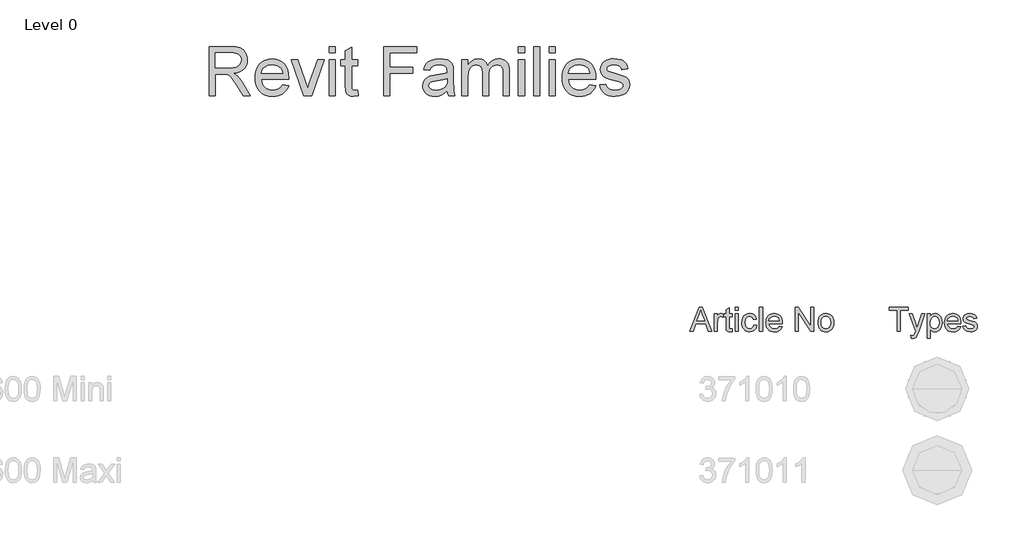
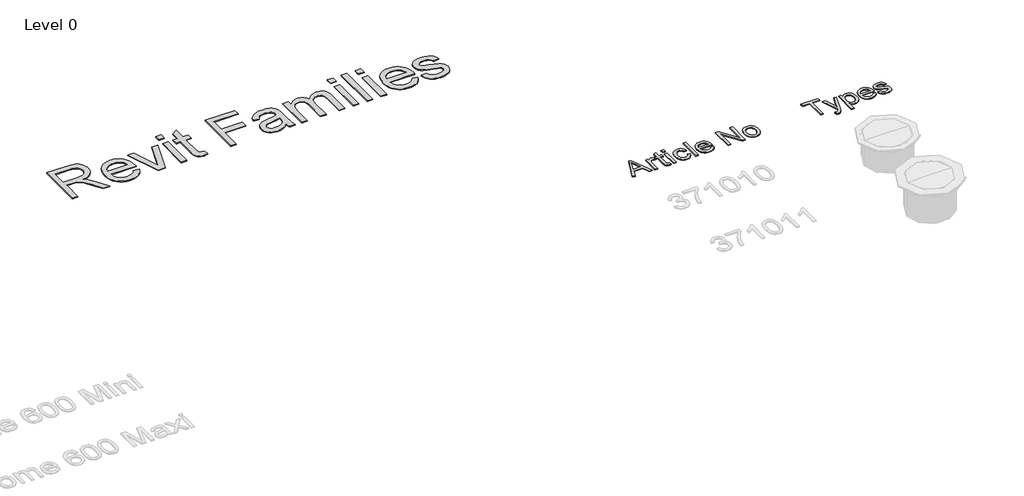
# One storey, part 25 of 25: 3 proxies.
"""IFC4 building model written with IfcOpenShell, lengths in millimetres."""

from ifc_helpers import new_model, si_unit, origin, origin_with_axes, place, context, project, spatial, polyline, outline, extrude, element, save

model = new_model("IFC4")

# Units and contexts
model_context = context("Model", 3, world=origin())
ifc_project = project(units=[si_unit("LENGTHUNIT", "METRE", prefix="MILLI")], contexts=[model_context])

# Site, building, storey
site = spatial("IfcSite", under=ifc_project)
building = spatial("IfcBuilding", under=site)
storey = spatial("IfcBuildingStorey", under=building, Name="Level 0", Elevation=0.0)

# Proxies
placement = place(None, origin())
element("IfcBuildingElementProxy", 1, Name="300mm Arial", ObjectType="300mm Arial", at=placement, inside=storey, context=model_context, shape_type="SweptSolid", body=[
    extrude(outline(polyline([(-3312.9807775, 8653.8274553), (-3195.0721236, 8949.2120707), (-3163.6298159, 8949.2120707), (-3045.7211621, 8653.8274553), (-3084.7355852, 8653.8274553), (-3118.5577005, 8746.1351476), (-3240.2163544, 8746.1351476), (-3273.9663544, 8653.8274553), (-3312.9807775, 8653.8274553)]), holes=[polyline([(-3226.6586621, 8783.0582246), (-3132.0432775, 8783.0582246), (-3158.6538544, 8855.6784169), (-3179.3509698, 8912.2889938), (-3197.7403928, 8862.0245707), (-3226.6586621, 8783.0582246)])]), origin_with_axes(), (0.0, 0.0, 1.0), 10.0),
    extrude(outline(polyline([(-3010.8894313, 8653.8274553), (-3010.8894313, 8870.7505323), (-2978.581739, 8870.7505323), (-2978.581739, 8838.6591861), (-2966.6466428, 8857.2649553), (-2955.6490467, 8868.2264938), (-2944.6153928, 8873.5810611), (-2932.5721236, 8875.3659169), (-2914.1827005, 8872.5173592), (-2895.5048159, 8863.9716861), (-2907.8365467, 8830.8707246), (-2920.8173159, 8836.5498111), (-2933.7980852, 8838.44284), (-2944.8227246, 8836.6219265), (-2954.675489, 8831.1591861), (-2962.6352246, 8822.4692823), (-2967.9807775, 8810.9668784), (-2972.4699602, 8790.3418784), (-2973.9663544, 8767.8418784), (-2973.9663544, 8653.8274553), (-3010.8894313, 8653.8274553)])), origin_with_axes(), (0.0, 0.0, 1.0), 10.0),
    extrude(outline(polyline([(-2793.9663544, 8684.6207246), (-2789.3509698, 8652.7457246), (-2816.9711621, 8649.2120707), (-2834.6935178, 8650.7445226), (-2847.9086621, 8655.3418784), (-2857.2476044, 8662.427215), (-2863.3413544, 8671.4236092), (-2866.6947198, 8686.8743303), (-2867.8125082, 8713.3226476), (-2867.8125082, 8833.8274553), (-2895.5048159, 8833.8274553), (-2895.5048159, 8870.7505323), (-2867.8125082, 8870.7505323), (-2867.8125082, 8923.4668784), (-2830.8894313, 8945.1736092), (-2830.8894313, 8870.7505323), (-2793.9663544, 8870.7505323), (-2793.9663544, 8833.8274553), (-2830.8894313, 8833.8274553), (-2830.8894313, 8714.4043784), (-2828.9423159, 8695.3659169), (-2822.6322198, 8688.6231284), (-2810.0480852, 8686.1351476), (-2793.9663544, 8684.6207246)])), origin_with_axes(), (0.0, 0.0, 1.0), 10.0),
    extrude(outline(polyline([(-2757.0432775, 8912.2889938), (-2757.0432775, 8949.2120707), (-2720.1202005, 8949.2120707), (-2720.1202005, 8912.2889938), (-2757.0432775, 8912.2889938)])), origin_with_axes(), (0.0, 0.0, 1.0), 10.0),
    extrude(outline(polyline([(-2757.0432775, 8653.8274553), (-2757.0432775, 8870.7505323), (-2720.1202005, 8870.7505323), (-2720.1202005, 8653.8274553), (-2757.0432775, 8653.8274553)])), origin_with_axes(), (0.0, 0.0, 1.0), 10.0),
    extrude(outline(polyline([(-2526.2740467, 8732.2889938), (-2489.3509698, 8727.6736092), (-2499.6454409, 8694.8340659), (-2518.9903928, 8670.0173592), (-2545.5649121, 8654.4133928), (-2577.5480852, 8649.2120707), (-2598.2564686, 8651.0262234), (-2616.8239265, 8656.4686813), (-2633.250459, 8665.5394445), (-2647.5360659, 8678.238513), (-2659.0993171, 8694.3270046), (-2667.3587823, 8713.5660371), (-2672.3144614, 8735.9556104), (-2673.9663544, 8761.4957246), (-2671.14484, 8794.3532967), (-2662.6802967, 8822.8298592), (-2648.4375082, 8845.8256525), (-2628.2812582, 8862.2409169), (-2604.1676765, 8872.0846669), (-2578.0528928, 8875.3659169), (-2546.8539746, 8870.8587053), (-2521.9110659, 8857.3370707), (-2504.0174361, 8835.5221669), (-2493.9663544, 8806.1351476), (-2530.8894313, 8801.519763), (-2537.5871477, 8817.6285371), (-2548.0168352, 8829.176013), (-2561.6015707, 8836.1261332), (-2577.7644313, 8838.44284), (-2601.6256092, 8833.8815419), (-2620.5649121, 8820.1976476), (-2632.9236861, 8796.6519746), (-2637.0432775, 8762.50534), (-2633.0138303, 8727.8989698), (-2620.925489, 8704.2721669), (-2602.3287342, 8690.6694025), (-2578.7740467, 8686.1351476), (-2559.6544553, 8688.9656765), (-2543.9783736, 8697.457263), (-2532.5751284, 8711.8262534), (-2526.2740467, 8732.2889938)])), origin_with_axes(), (0.0, 0.0, 1.0), 10.0),
    extrude(outline(polyline([(-2457.0432775, 8653.8274553), (-2457.0432775, 8949.2120707), (-2420.1202005, 8949.2120707), (-2420.1202005, 8653.8274553), (-2457.0432775, 8653.8274553)])), origin_with_axes(), (0.0, 0.0, 1.0), 10.0),
    extrude(outline(polyline([(-2212.8605852, 8718.44284), (-2176.6586621, 8713.8274553), (-2189.7025323, 8686.5498111), (-2210.5168352, 8666.1591861), (-2238.6328207, 8653.4488496), (-2273.581739, 8649.2120707), (-2296.4918953, 8651.039745), (-2316.9050563, 8656.5227678), (-2334.8212222, 8665.6611392), (-2350.2403928, 8678.4548592), (-2362.6397318, 8694.547858), (-2371.4964025, 8713.5840659), (-2376.8104049, 8735.563483), (-2378.581739, 8760.4861092), (-2376.792376, 8786.2538375), (-2371.4242871, 8808.9656765), (-2362.4774722, 8828.621626), (-2349.9519313, 8845.2216861), (-2334.5733255, 8858.4097871), (-2317.0673159, 8867.8298592), (-2297.4339025, 8873.4819025), (-2275.6730852, 8875.3659169), (-2254.6131392, 8873.4864097), (-2235.5679169, 8867.847888), (-2218.5374181, 8858.450352), (-2203.5216428, 8845.2938015), (-2191.2642811, 8828.7297991), (-2182.5090227, 8809.1099073), (-2177.2558676, 8786.434126), (-2175.5048159, 8760.7024553), (-2175.7211621, 8750.7505323), (-2341.6586621, 8750.7505323), (-2335.2674361, 8723.1123111), (-2320.4206813, 8702.7938015), (-2298.9933977, 8690.2998111), (-2272.8605852, 8686.1351476), (-2253.2091428, 8688.0642342), (-2236.6586621, 8693.8514938), (-2223.2091428, 8703.8575034), (-2212.8605852, 8718.44284)]), holes=[polyline([(-2341.6586621, 8787.6736092), (-2212.4278928, 8787.6736092), (-2217.4218832, 8807.1808207), (-2227.2115467, 8821.1351476), (-2248.737989, 8834.1159169), (-2275.8173159, 8838.44284), (-2300.706138, 8834.9903159), (-2321.2860659, 8824.6327438), (-2335.5919553, 8808.4879121), (-2341.6586621, 8787.6736092)])]), origin_with_axes(), (0.0, 0.0, 1.0), 10.0),
    extrude(outline(polyline([(-2018.581739, 8653.8274553), (-2018.581739, 8949.2120707), (-1979.0625082, 8949.2120707), (-1824.7355852, 8715.1976476), (-1824.7355852, 8949.2120707), (-1787.8125082, 8949.2120707), (-1787.8125082, 8653.8274553), (-1827.331739, 8653.8274553), (-1981.6586621, 8887.9139938), (-1981.6586621, 8653.8274553), (-2018.581739, 8653.8274553)])), origin_with_axes(), (0.0, 0.0, 1.0), 10.0),
    extrude(outline(polyline([(-1737.0432775, 8762.2889938), (-1735.0465828, 8790.3824433), (-1729.0564986, 8814.5906765), (-1719.0730251, 8834.9136933), (-1705.0961621, 8851.3514938), (-1691.0246477, 8861.8578039), (-1675.4927967, 8869.3623111), (-1658.5006092, 8873.8650154), (-1640.0480852, 8875.3659169), (-1619.6777426, 8873.5382426), (-1601.2590227, 8868.0552198), (-1584.7919253, 8858.9168484), (-1570.2764505, 8846.1231284), (-1558.429245, 8830.1067522), (-1549.9669553, 8811.3004121), (-1544.8895815, 8789.704108), (-1543.1971236, 8765.31784), (-1546.1899121, 8728.0161573), (-1555.1682775, 8699.6207246), (-1569.8708015, 8678.3557005), (-1590.0360659, 8662.4452438), (-1613.987388, 8652.520364), (-1640.0480852, 8649.2120707), (-1660.7159037, 8651.0329842), (-1679.3058977, 8656.4957246), (-1695.8180671, 8665.6002919), (-1710.2524121, 8678.3466861), (-1721.9734157, 8694.5185611), (-1730.3455611, 8713.8995707), (-1735.3688484, 8736.489715), (-1737.0432775, 8762.2889938)]), holes=[polyline([(-1700.1202005, 8762.3611092), (-1695.847364, 8728.9446428), (-1683.0288544, 8705.1375515), (-1663.737989, 8690.8857486), (-1640.0480852, 8686.1351476), (-1616.4663544, 8690.9127919), (-1597.2115467, 8705.2457246), (-1584.3930371, 8729.3683207), (-1580.1202005, 8763.5149553), (-1584.4200803, 8795.957864), (-1597.3197198, 8819.4404361), (-1616.6015707, 8833.692239), (-1640.0480852, 8838.44284), (-1663.737989, 8833.7102678), (-1683.0288544, 8819.5125515), (-1695.847364, 8795.7595467), (-1700.1202005, 8762.3611092)])]), origin_with_axes(), (0.0, 0.0, 1.0), 10.0),
])
element("IfcBuildingElementProxy", 2, Name="300mm Arial", ObjectType="300mm Arial", at=placement, inside=storey, context=model_context, shape_type="SweptSolid", body=[
    extrude(outline(polyline([(-763.9663544, 8653.8274553), (-763.9663544, 8912.2889938), (-860.8894313, 8912.2889938), (-860.8894313, 8949.2120707), (-630.1202005, 8949.2120707), (-630.1202005, 8912.2889938), (-727.0432775, 8912.2889938), (-727.0432775, 8653.8274553), (-763.9663544, 8653.8274553)])), origin_with_axes(), (0.0, 0.0, 1.0), 10.0),
    extrude(outline(polyline([(-593.1971236, 8570.7505323), (-597.8125082, 8606.3034169), (-579.0625082, 8603.0582246), (-561.5384698, 8607.1327438), (-550.7932775, 8618.4909169), (-540.6971236, 8645.6784169), (-537.8125082, 8654.6207246), (-616.2740467, 8870.7505323), (-577.331739, 8870.7505323), (-535.7211621, 8750.31784), (-521.2259698, 8702.144763), (-506.7307775, 8744.69284), (-463.9663544, 8870.7505323), (-425.3125082, 8870.7505323), (-500.8173159, 8648.6351476), (-520.4327005, 8600.4620707), (-530.4747678, 8585.083465), (-541.8509698, 8574.4284169), (-555.066114, 8568.208465), (-570.6250082, 8566.1351476), (-593.1971236, 8570.7505323)])), origin_with_axes(), (0.0, 0.0, 1.0), 10.0),
    extrude(outline(polyline([(-394.7355852, 8570.7505323), (-394.7355852, 8870.7505323), (-357.8125082, 8870.7505323), (-357.8125082, 8834.5486092), (-345.769239, 8852.4061813), (-332.2836621, 8865.16159), (-316.5625082, 8872.8148351), (-297.8125082, 8875.3659169), (-272.8425563, 8871.7962053), (-251.0096236, 8861.0870707), (-233.2331813, 8843.8875515), (-220.4327005, 8820.8466861), (-212.6983255, 8793.6411573), (-210.1202005, 8763.9476476), (-213.0318592, 8732.3701236), (-221.7668352, 8704.1279361), (-236.0456813, 8680.6543784), (-255.5889505, 8663.3827438), (-278.3503688, 8652.754739), (-302.2836621, 8649.2120707), (-319.2578207, 8651.582864), (-334.4110659, 8658.6952438), (-347.3828207, 8669.4314217), (-357.8125082, 8682.6736092), (-357.8125082, 8570.7505323), (-394.7355852, 8570.7505323)]), holes=[polyline([(-357.8125082, 8760.5582246), (-353.8191188, 8727.457263), (-341.8389505, 8704.3082246), (-324.1616669, 8690.6784169), (-303.0769313, 8686.1351476), (-281.6496477, 8690.8406765), (-263.5216428, 8704.957263), (-251.1628688, 8728.9536573), (-247.0432775, 8763.2986092), (-251.0637102, 8796.2192823), (-263.1250082, 8819.69284), (-280.7752486, 8833.75534), (-301.5625082, 8838.44284), (-322.4308977, 8833.457864), (-340.7572198, 8818.5029361), (-353.5486861, 8794.0468063), (-357.8125082, 8760.5582246)])]), origin_with_axes(), (0.0, 0.0, 1.0), 10.0),
    extrude(outline(polyline([(-16.706739, 8718.44284), (19.4951841, 8713.8274553), (6.4513139, 8686.5498111), (-14.362989, 8666.1591861), (-42.4789746, 8653.4488496), (-77.4278928, 8649.2120707), (-100.3380491, 8651.039745), (-120.7512102, 8656.5227678), (-138.667376, 8665.6611392), (-154.0865467, 8678.4548592), (-166.4858856, 8694.547858), (-175.3425563, 8713.5840659), (-180.6565587, 8735.563483), (-182.4278928, 8760.4861092), (-180.6385299, 8786.2538375), (-175.2704409, 8808.9656765), (-166.323626, 8828.621626), (-153.7980852, 8845.2216861), (-138.4194794, 8858.4097871), (-120.9134698, 8867.8298592), (-101.2800563, 8873.4819025), (-79.519239, 8875.3659169), (-58.4592931, 8873.4864097), (-39.4140707, 8867.847888), (-22.3835719, 8858.450352), (-7.3677967, 8845.2938015), (4.8895651, 8828.7297991), (13.6448235, 8809.1099073), (18.8979785, 8786.434126), (20.6490302, 8760.7024553), (20.4326841, 8750.7505323), (-145.5048159, 8750.7505323), (-139.11359, 8723.1123111), (-124.2668352, 8702.7938015), (-102.8395515, 8690.2998111), (-76.706739, 8686.1351476), (-57.0552967, 8688.0642342), (-40.5048159, 8693.8514938), (-27.0552967, 8703.8575034), (-16.706739, 8718.44284)]), holes=[polyline([(-145.5048159, 8787.6736092), (-16.2740467, 8787.6736092), (-21.2680371, 8807.1808207), (-31.0577005, 8821.1351476), (-52.5841428, 8834.1159169), (-79.6634698, 8838.44284), (-104.5522919, 8834.9903159), (-125.1322198, 8824.6327438), (-139.4381092, 8808.4879121), (-145.5048159, 8787.6736092)])]), origin_with_axes(), (0.0, 0.0, 1.0), 10.0),
    extrude(outline(polyline([(43.7259533, 8718.44284), (80.6490302, 8723.0582246), (86.4723475, 8707.2649553), (97.7403764, 8695.6543784), (114.5252322, 8688.5149553), (136.8990302, 8686.1351476), (159.0023956, 8688.316638), (174.543261, 8694.8611092), (183.7379725, 8704.3442823), (186.8028764, 8715.3418784), (183.7199437, 8724.7529361), (174.4711456, 8731.9284169), (136.4663379, 8742.457263), (80.8653764, 8760.5221669), (66.793862, 8769.5996909), (56.5985495, 8781.6159169), (50.4056408, 8795.8046188), (48.3413379, 8811.3995707), (49.9999918, 8825.7054601), (54.9759533, 8838.91159), (62.8185014, 8850.4951236), (73.0769148, 8859.9332246), (96.5504725, 8870.8587053), (128.3172995, 8875.3659169), (152.3497514, 8873.5540178), (173.2451841, 8868.1183207), (190.0480687, 8859.5906765), (201.8028764, 8848.5029361), (209.5913379, 8834.0347871), (214.4951841, 8815.3659169), (177.5721072, 8810.7505323), (172.9116504, 8822.3701236), (163.6898956, 8831.1231284), (149.8166985, 8836.6129121), (131.2019148, 8838.44284), (109.9999918, 8836.6940419), (95.8653764, 8831.4476476), (87.9146552, 8823.8755323), (85.2644148, 8815.1495707), (89.6634533, 8804.4043784), (103.4374918, 8796.25534), (135.2403764, 8788.394763), (189.4350879, 8771.0149553), (203.7499918, 8762.7036573), (214.6033572, 8751.3274553), (221.4453043, 8736.8502919), (223.7259533, 8719.2361092), (221.0486697, 8701.0269746), (213.0168187, 8683.8995707), (199.9368908, 8669.1970467), (182.1153764, 8658.2625515), (160.5889341, 8651.4746909), (136.3942225, 8649.2120707), (99.1646552, 8653.5750515), (71.9951841, 8666.6639938), (53.8581648, 8688.3346669), (43.7259533, 8718.44284)])), origin_with_axes(), (0.0, 0.0, 1.0), 10.0),
])
element("IfcBuildingElementProxy", 3, Name="600mm Arial", ObjectType="600mm Arial", at=placement, inside=storey, context=model_context, shape_type="SweptSolid", body=[
    extrude(outline(polyline([(-9226.1144326, 11555.647095), (-9226.1144326, 12158.3849559), (-8966.389744, 12158.3849559), (-8896.5841354, 12154.3198599), (-8845.798026, 12142.1245717), (-8826.1991127, 12132.4308811), (-8808.6787327, 12119.6101936), (-8793.2368859, 12103.6625091), (-8779.8735725, 12084.5878277), (-8769.0900315, 12063.4116203), (-8761.3875022, 12041.1593581), (-8756.7659846, 12017.8310411), (-8755.2254788, 11993.4266693), (-8757.7776601, 11962.4693994), (-8765.4342042, 11934.0505152), (-8778.1951109, 11908.1700169), (-8796.0603802, 11884.8279043), (-8819.2599386, 11864.7691385), (-8848.0237121, 11848.7386806), (-8882.3517007, 11836.7365305), (-8922.2439046, 11828.7626882), (-8897.4118699, 11812.5390922), (-8879.4224404, 11796.5362254), (-8848.557141, 11759.9319669), (-8818.3540292, 11718.9867009), (-8717.8486681, 11555.647095), (-8805.4045829, 11555.647095), (-8883.8370243, 11680.5798206), (-8940.4908516, 11763.2796931), (-8961.5520958, 11787.3943579), (-8980.2956834, 11802.348761), (-9016.1273898, 11816.6961588), (-9059.8317708, 11819.3449091), (-9150.7722, 11819.3449091), (-9150.7722, 11555.647095), (-9226.1144326, 11555.647095)]), holes=[polyline([(-9150.7722, 11894.6871418), (-8982.1350934, 11894.6871418), (-8933.7034287, 11897.3542862), (-8896.1242829, 11905.3557196), (-8867.8341575, 11919.2248708), (-8847.269554, 11939.4951688), (-8834.743172, 11964.0145037), (-8830.5677114, 11990.6307661), (-8832.5588727, 12009.8985856), (-8838.5323566, 12027.3821774), (-8848.4881631, 12043.0815416), (-8862.4262922, 12056.996678), (-8880.6686406, 12068.3918228), (-8903.5371051, 12076.531212), (-8931.0316858, 12081.4148455), (-8963.1523825, 12083.0427233), (-9150.7722, 12083.0427233), (-9150.7722, 11894.6871418)])]), origin_with_axes(), (0.0, 0.0, 1.0), 10.0),
    extrude(outline(polyline([(-8322.8905581, 11687.4960021), (-8249.0198534, 11678.078223), (-8260.3460203, 11648.4913135), (-8275.6361158, 11622.4176771), (-8294.8901397, 11599.8573138), (-8318.1080921, 11580.8102235), (-8345.0508497, 11565.6810764), (-8375.4792893, 11554.8745428), (-8409.3934107, 11548.3906226), (-8446.793214, 11546.2293159), (-8493.5418186, 11549.9587196), (-8535.1952575, 11561.1469308), (-8571.7535307, 11579.7939495), (-8603.2166384, 11605.8997755), (-8628.5177226, 11638.7378421), (-8646.5899256, 11677.5815823), (-8657.4332474, 11722.430996), (-8661.047688, 11773.2860833), (-8657.3964592, 11825.8656175), (-8646.4427728, 11872.2095518), (-8628.1866288, 11912.3178864), (-8602.6280272, 11946.1906211), (-8571.247693, 11973.101189), (-8535.5263513, 11992.3230233), (-8495.464002, 12003.8561238), (-8451.0606452, 12007.7004907), (-8408.0874296, 12003.8653209), (-8369.2252953, 11992.3598115), (-8334.4742424, 11973.1839625), (-8303.8342707, 11946.3377739), (-8278.8228936, 11912.5386156), (-8260.9576242, 11872.5038574), (-8250.2384625, 11826.2334995), (-8246.6654087, 11773.7275417), (-8247.106867, 11753.4204556), (-8585.7054554, 11753.4204556), (-8581.3414552, 11723.3552996), (-8572.6640387, 11697.0241457), (-8559.6732057, 11674.4269942), (-8542.3689564, 11655.5638449), (-8521.7077838, 11640.6922152), (-8498.6461812, 11630.0696226), (-8473.1841487, 11623.6960671), (-8445.321686, 11621.5715485), (-8405.2225486, 11625.5078859), (-8371.4509814, 11637.3168979), (-8344.0069846, 11657.7343487), (-8322.8905581, 11687.4960021)]), holes=[polyline([(-8585.7054554, 11828.7626882), (-8322.0076413, 11828.7626882), (-8332.1979725, 11868.5675201), (-8340.9627611, 11884.220899), (-8352.1739649, 11897.0415865), (-8372.7201743, 11912.4926303), (-8396.0990751, 11923.5290902), (-8422.3106672, 11930.1509661), (-8451.3549508, 11932.3582581), (-8477.8470529, 11930.597023), (-8502.1410602, 11925.3133179), (-8524.2369725, 11916.5071426), (-8544.13479, 11904.1784972), (-8560.832034, 11888.8975989), (-8573.3262263, 11871.2346646), (-8581.6173667, 11851.1896944), (-8585.7054554, 11828.7626882)])]), origin_with_axes(), (0.0, 0.0, 1.0), 10.0),
    extrude(outline(polyline([(-8062.7244111, 11555.647095), (-8218.4120714, 11998.2827116), (-8138.6552549, 11998.2827116), (-8044.3303113, 11733.1133695), (-8015.9298213, 11643.9387738), (-7988.1179424, 11728.1101743), (-7893.2043877, 11998.2827116), (-7813.4475711, 11998.2827116), (-7967.2222451, 11555.647095), (-8062.7244111, 11555.647095)])), origin_with_axes(), (0.0, 0.0, 1.0), 10.0),
    extrude(outline(polyline([(-7747.5231176, 12083.0427233), (-7747.5231176, 12158.3849559), (-7672.180885, 12158.3849559), (-7672.180885, 12083.0427233), (-7747.5231176, 12083.0427233)])), origin_with_axes(), (0.0, 0.0, 1.0), 10.0),
    extrude(outline(polyline([(-7747.5231176, 11555.647095), (-7747.5231176, 11998.2827116), (-7672.180885, 11998.2827116), (-7672.180885, 11555.647095), (-7747.5231176, 11555.647095)])), origin_with_axes(), (0.0, 0.0, 1.0), 10.0),
    extrude(outline(polyline([(-7399.0652918, 11618.4813398), (-7389.6475127, 11553.439803), (-7446.0070343, 11546.2293159), (-7482.1698345, 11549.3563129), (-7509.1355847, 11558.7373038), (-7528.1918721, 11573.1950662), (-7540.6262835, 11591.5523777), (-7547.4688886, 11623.0798647), (-7549.749757, 11677.0481534), (-7549.749757, 11922.940479), (-7606.2564314, 11922.940479), (-7606.2564314, 11998.2827116), (-7549.749757, 11998.2827116), (-7549.749757, 12105.851407), (-7474.4075244, 12150.1443992), (-7474.4075244, 11998.2827116), (-7399.0652918, 11998.2827116), (-7399.0652918, 11922.940479), (-7474.4075244, 11922.940479), (-7474.4075244, 11679.2554454), (-7470.4343988, 11640.4071067), (-7457.558529, 11626.6483201), (-7446.687616, 11622.8407414), (-7431.8803657, 11621.5715485), (-7399.0652918, 11618.4813398)])), origin_with_axes(), (0.0, 0.0, 1.0), 10.0),
    extrude(outline(polyline([(-7078.8608032, 11555.647095), (-7078.8608032, 12158.3849559), (-6673.8963029, 12158.3849559), (-6673.8963029, 12083.0427233), (-7003.5185706, 12083.0427233), (-7003.5185706, 11904.1049208), (-6720.9851983, 11904.1049208), (-6720.9851983, 11828.7626882), (-7003.5185706, 11828.7626882), (-7003.5185706, 11555.647095), (-7078.8608032, 11555.647095)])), origin_with_axes(), (0.0, 0.0, 1.0), 10.0),
    extrude(outline(polyline([(-6297.1851398, 11612.1537695), (-6333.182393, 11581.2884701), (-6370.2465041, 11561.0917485), (-6409.2236014, 11549.9449241), (-6450.9598138, 11546.2293159), (-6484.5060532, 11548.464199), (-6513.9228173, 11555.1688484), (-6539.2101059, 11566.343264), (-6560.3679192, 11581.9874459), (-6577.0743603, 11601.1081126), (-6589.0075325, 11622.7119827), (-6596.1674358, 11646.7990564), (-6598.5540703, 11673.3693335), (-6594.9488267, 11704.6025148), (-6584.133096, 11732.9662167), (-6567.4496476, 11757.2464284), (-6546.2412505, 11776.2291393), (-6521.3172454, 11790.5765371), (-6493.4869724, 11800.9508094), (-6428.2982829, 11812.2815748), (-6351.2637931, 11824.2009515), (-6297.6265982, 11838.1804673), (-6297.1851398, 11854.9558863), (-6302.3722759, 11888.5803006), (-6308.8561961, 11901.0331062), (-6317.9336843, 11910.5796439), (-6333.6238514, 11920.1077876), (-6352.7353211, 11926.9136045), (-6401.222168, 11932.3582581), (-6446.1037715, 11928.7346204), (-6477.4473174, 11917.8637075), (-6498.8212614, 11897.7589564), (-6513.7940586, 11866.4338045), (-6589.1362912, 11875.8515836), (-6576.0580863, 11917.0543671), (-6556.5419464, 11949.4279826), (-6528.7668558, 11974.1864409), (-6490.9117985, 11992.5437525), (-6444.6138494, 12003.9113061), (-6391.5100834, 12007.7004907), (-6340.5768211, 12004.3527645), (-6300.2017722, 11994.309586), (-6269.7595371, 11979.2080301), (-6248.6247164, 11960.6851717), (-6234.6084124, 11937.7845175), (-6225.5217272, 11909.5495744), (-6221.8429072, 11843.6251208), (-6221.8429072, 11749.8887885), (-6218.0169344, 11618.9963746), (-6212.3515517, 11586.6411531), (-6203.007349, 11555.647095), (-6278.3495817, 11555.647095), (-6290.4161111, 11581.8402931), (-6297.1851398, 11612.1537695)]), holes=[polyline([(-6297.1851398, 11762.8382347), (-6347.8057023, 11750.2934586), (-6418.733351, 11739.7352454), (-6483.5541586, 11727.5215631), (-6500.421548, 11719.1706419), (-6512.9111418, 11707.6559354), (-6520.6366637, 11693.8603606), (-6523.2118376, 11678.6668342), (-6517.6016372, 11656.2628207), (-6500.7710359, 11637.9055091), (-6473.0879158, 11625.6550387), (-6434.9201588, 11621.5715485), (-6394.4531393, 11626.078103), (-6358.6950094, 11639.5977663), (-6329.7059082, 11659.5185763), (-6309.5459748, 11683.2285709), (-6300.6064424, 11707.6559354), (-6297.6265982, 11741.501079), (-6297.1851398, 11762.8382347)])]), origin_with_axes(), (0.0, 0.0, 1.0), 10.0),
    extrude(outline(polyline([(-6118.2473374, 11555.647095), (-6118.2473374, 11998.2827116), (-6042.9051047, 11998.2827116), (-6042.9051047, 11925.4420766), (-6020.2435738, 11958.900944), (-5991.1073198, 11985.1125362), (-5956.4896241, 12002.053502), (-5917.383768, 12007.7004907), (-5875.4820087, 12001.9431374), (-5857.648929, 11994.7464459), (-5841.8943826, 11984.6710778), (-5816.8048305, 11957.0247458), (-5800.3972935, 11920.1445758), (-5772.9349026, 11958.4502886), (-5741.6097507, 11985.811512), (-5706.4218379, 12002.228246), (-5667.3711641, 12007.7004907), (-5637.209439, 12005.4242208), (-5610.7357309, 11998.5954113), (-5587.9500398, 11987.2140621), (-5568.8523658, 11971.2801732), (-5553.7554084, 11950.6098035), (-5542.9718674, 11925.0190123), (-5536.5017428, 11894.5077993), (-5534.3450346, 11859.0761646), (-5534.3450346, 11555.647095), (-5609.6872672, 11555.647095), (-5609.6872672, 11826.702549), (-5611.4347067, 11864.2816949), (-5616.6770251, 11889.6103702), (-5626.4994744, 11906.9560063), (-5641.9873064, 11920.5860342), (-5661.9081164, 11929.4152021), (-5685.0294998, 11932.3582581), (-5706.3804511, 11930.4728628), (-5725.8460072, 11924.8166772), (-5743.426168, 11915.389701), (-5759.1209337, 11902.1919345), (-5772.0289932, 11884.8371013), (-5781.2490357, 11862.9389256), (-5786.7810612, 11836.4974072), (-5788.6250697, 11805.5125461), (-5788.6250697, 11555.647095), (-5863.9673023, 11555.647095), (-5863.9673023, 11835.0902585), (-5868.3267039, 11877.6909936), (-5873.775956, 11894.4112303), (-5881.4049089, 11908.0780464), (-5891.5170652, 11918.700639), (-5904.4159277, 11926.2882051), (-5920.1014962, 11930.8407448), (-5938.5737709, 11932.3582581), (-5967.5996603, 11928.3115561), (-5994.3446814, 11916.1714503), (-6016.4176011, 11896.2322461), (-6031.4271865, 11868.7882493), (-6040.0356252, 11830.7124628), (-6042.9051047, 11778.8778897), (-6042.9051047, 11555.647095), (-6118.2473374, 11555.647095)])), origin_with_axes(), (0.0, 0.0, 1.0), 10.0),
    extrude(outline(polyline([(-5421.3316857, 12083.0427233), (-5421.3316857, 12158.3849559), (-5345.9894531, 12158.3849559), (-5345.9894531, 12083.0427233), (-5421.3316857, 12083.0427233)])), origin_with_axes(), (0.0, 0.0, 1.0), 10.0),
    extrude(outline(polyline([(-5421.3316857, 11555.647095), (-5421.3316857, 11998.2827116), (-5345.9894531, 11998.2827116), (-5345.9894531, 11555.647095), (-5421.3316857, 11555.647095)])), origin_with_axes(), (0.0, 0.0, 1.0), 10.0),
    extrude(outline(polyline([(-5232.9761042, 11555.647095), (-5232.9761042, 12158.3849559), (-5157.6338716, 12158.3849559), (-5157.6338716, 11555.647095), (-5232.9761042, 11555.647095)])), origin_with_axes(), (0.0, 0.0, 1.0), 10.0),
    extrude(outline(polyline([(-5044.6205226, 12083.0427233), (-5044.6205226, 12158.3849559), (-4969.27829, 12158.3849559), (-4969.27829, 12083.0427233), (-5044.6205226, 12083.0427233)])), origin_with_axes(), (0.0, 0.0, 1.0), 10.0),
    extrude(outline(polyline([(-5044.6205226, 11555.647095), (-5044.6205226, 11998.2827116), (-4969.27829, 11998.2827116), (-4969.27829, 11555.647095), (-5044.6205226, 11555.647095)])), origin_with_axes(), (0.0, 0.0, 1.0), 10.0),
    extrude(outline(polyline([(-4546.3611484, 11687.4960021), (-4472.4904437, 11678.078223), (-4483.8166107, 11648.4913135), (-4499.1067061, 11622.4176771), (-4518.36073, 11599.8573138), (-4541.5786824, 11580.8102235), (-4568.5214401, 11565.6810764), (-4598.9498796, 11554.8745428), (-4632.864001, 11548.3906226), (-4670.2638043, 11546.2293159), (-4717.0124089, 11549.9587196), (-4758.6658478, 11561.1469308), (-4795.2241211, 11579.7939495), (-4826.6872287, 11605.8997755), (-4851.9883129, 11638.7378421), (-4870.0605159, 11677.5815823), (-4880.9038377, 11722.430996), (-4884.5182783, 11773.2860833), (-4880.8670495, 11825.8656175), (-4869.9133631, 11872.2095518), (-4851.6572191, 11912.3178864), (-4826.0986175, 11946.1906211), (-4794.7182833, 11973.101189), (-4758.9969416, 11992.3230233), (-4718.9345923, 12003.8561238), (-4674.5312355, 12007.7004907), (-4631.5580199, 12003.8653209), (-4592.6958857, 11992.3598115), (-4557.9448327, 11973.1839625), (-4527.304861, 11946.3377739), (-4502.2934839, 11912.5386156), (-4484.4282145, 11872.5038574), (-4473.7090528, 11826.2334995), (-4470.135999, 11773.7275417), (-4470.5774574, 11753.4204556), (-4809.1760457, 11753.4204556), (-4804.8120456, 11723.3552996), (-4796.134629, 11697.0241457), (-4783.143796, 11674.4269942), (-4765.8395467, 11655.5638449), (-4745.1783741, 11640.6922152), (-4722.1167716, 11630.0696226), (-4696.654739, 11623.6960671), (-4668.7922764, 11621.5715485), (-4628.6931389, 11625.5078859), (-4594.9215717, 11637.3168979), (-4567.4775749, 11657.7343487), (-4546.3611484, 11687.4960021)]), holes=[polyline([(-4809.1760457, 11828.7626882), (-4545.4782316, 11828.7626882), (-4555.6685628, 11868.5675201), (-4564.4333514, 11884.220899), (-4575.6445552, 11897.0415865), (-4596.1907646, 11912.4926303), (-4619.5696654, 11923.5290902), (-4645.7812576, 11930.1509661), (-4674.8255411, 11932.3582581), (-4701.3176433, 11930.597023), (-4725.6116505, 11925.3133179), (-4747.7075629, 11916.5071426), (-4767.6053803, 11904.1784972), (-4784.3026243, 11888.8975989), (-4796.7968166, 11871.2346646), (-4805.087957, 11851.1896944), (-4809.1760457, 11828.7626882)])]), origin_with_axes(), (0.0, 0.0, 1.0), 10.0),
    extrude(outline(polyline([(-4423.0471036, 11687.4960021), (-4347.704871, 11696.9137811), (-4343.1523313, 11679.733692), (-4335.8222825, 11664.6873184), (-4325.7147247, 11651.7746603), (-4312.8296578, 11640.9957179), (-4297.1302937, 11632.4976438), (-4278.5798441, 11626.4275909), (-4232.9256885, 11621.5715485), (-4187.8233559, 11626.0229207), (-4170.2937788, 11631.5871359), (-4156.1119279, 11639.3770371), (-4137.3499461, 11658.72763), (-4132.6594507, 11669.5617548), (-4131.0959522, 11681.1684318), (-4132.6686477, 11691.3403689), (-4137.3867343, 11700.3718719), (-4156.2590807, 11715.0135753), (-4184.4756297, 11724.5785072), (-4233.8086053, 11736.4978838), (-4302.5657502, 11756.3819057), (-4347.2634126, 11773.3596597), (-4375.9766023, 11791.8825182), (-4396.7803291, 11816.4018532), (-4409.4170757, 11845.3541662), (-4413.6293245, 11877.1759588), (-4410.2448102, 11906.3673951), (-4400.0912671, 11933.3147512), (-4384.0884003, 11956.9511694), (-4363.1559148, 11976.2097919), (-4342.3521879, 11988.3315036), (-4315.257679, 11998.5034408), (-4283.9325271, 12005.4012282), (-4250.4368714, 12007.7004907), (-4201.3982015, 12004.0032766), (-4158.7606782, 11992.9116345), (-4124.4740763, 11975.5108161), (-4100.4881702, 11952.8860734), (-4084.595668, 11923.3635433), (-4074.5892778, 11885.2693627), (-4149.9315104, 11875.8515836), (-4159.4412599, 11899.5615782), (-4178.258424, 11917.4222491), (-4206.5669435, 11928.6242558), (-4244.5507595, 11932.3582581), (-4287.8136822, 11928.7898027), (-4316.6556306, 11918.0844366), (-4332.8792266, 11902.6333929), (-4338.2870919, 11884.8279043), (-4336.0430117, 11873.2396214), (-4329.3107712, 11862.9021374), (-4317.7960648, 11853.6682993), (-4301.2045868, 11846.2738712), (-4236.3102028, 11830.2342162), (-4125.7248751, 11794.7703919), (-4096.5150447, 11777.8110319), (-4074.3685486, 11754.597678), (-4060.4074268, 11725.0567538), (-4055.7537196, 11689.1146828), (-4061.2167672, 11651.9586013), (-4077.6059101, 11617.0098118), (-4104.2957489, 11587.0090351), (-4140.6608841, 11564.6969921), (-4184.5859943, 11550.846235), (-4233.9557581, 11546.2293159), (-4274.505551, 11548.455002), (-4309.9233901, 11555.1320602), (-4340.2092753, 11566.2604906), (-4365.3632067, 11581.8402931), (-4385.9094162, 11601.7978913), (-4402.3721355, 11626.0597089), (-4414.7513646, 11654.6257458), (-4423.0471036, 11687.4960021)])), origin_with_axes(), (0.0, 0.0, 1.0), 10.0),
])

save(model, "model.ifc")
